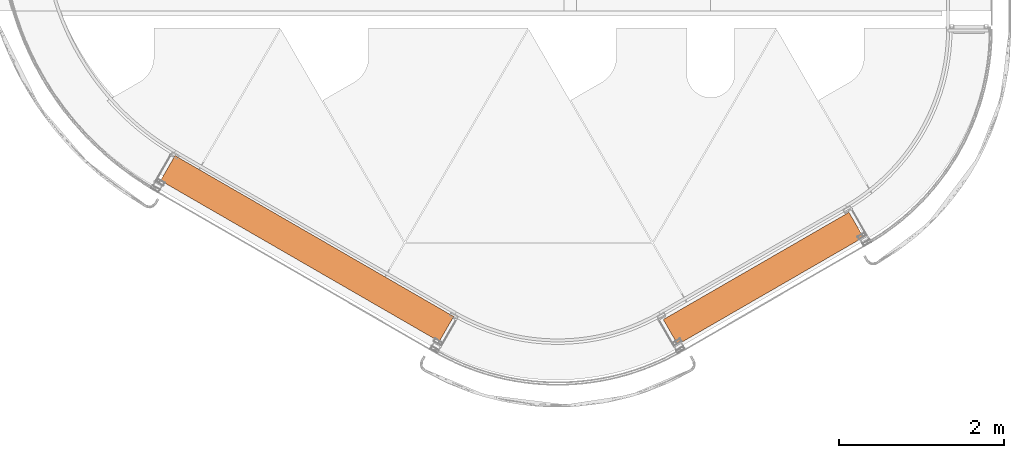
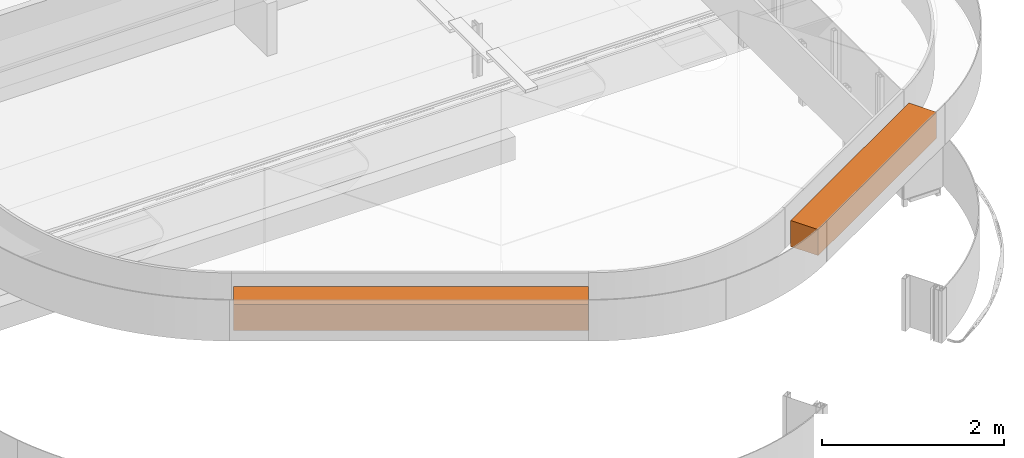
# One storey, part 18 of 18: 2 proxies.
"""IFC2X3 building model written with IfcOpenShell, lengths in millimetres."""

from ifc_helpers import new_model, entity, si_unit, converted_unit, derived_unit, direction, frame, frame_2d, origin, origin_with_axes, origin_2d_with_axis, place, context, subcontext, project, spatial, rectangle, extrude, source, transform, mapped, material, type_object, element, save


model = new_model("IFC2X3")

# Units and contexts
model_context = context("Model", 3, precision=0.01, world=frame((0.0, 4.29681676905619e-09, 0.0)), true_north=direction((4.01073788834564e-13, 1.0)))
plan_context = context("Plan", 3, precision=0.01, world=frame((0.0, 4.29681676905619e-09, 0.0)), true_north=direction((4.01073788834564e-13, 1.0)))
body_context = subcontext(model_context, "Body", "Model", "MODEL_VIEW")
ifc_project = project(units=[converted_unit("PLANEANGLEUNIT", "DEGREE", entity("IfcPositiveLengthMeasure", 0.0174532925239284), si_unit("PLANEANGLEUNIT", "RADIAN"), dimensions=[0, 0, 0, 0, 0, 0, 0]), si_unit("AREAUNIT", "SQUARE_METRE"), si_unit("LENGTHUNIT", "METRE", prefix="MILLI"), si_unit("MASSUNIT", "GRAM", prefix="KILO"), si_unit("POWERUNIT", "WATT"), si_unit("PRESSUREUNIT", "PASCAL"), si_unit("FORCEUNIT", "NEWTON", prefix="KILO"), si_unit("ELECTRICVOLTAGEUNIT", "VOLT"), si_unit("ELECTRICCURRENTUNIT", "AMPERE"), si_unit("THERMODYNAMICTEMPERATUREUNIT", "DEGREE_CELSIUS"), si_unit("TIMEUNIT", "SECOND"), si_unit("VOLUMEUNIT", "CUBIC_METRE"), derived_unit("LINEARVELOCITYUNIT", [(si_unit("LENGTHUNIT", "METRE"), 1), (si_unit("TIMEUNIT", "SECOND"), -1)]), derived_unit("VOLUMETRICFLOWRATEUNIT", [(si_unit("VOLUMEUNIT", "CUBIC_METRE"), 1), (si_unit("TIMEUNIT", "SECOND"), -1)]), derived_unit("THERMALTRANSMITTANCEUNIT", [(si_unit("POWERUNIT", "WATT"), 1), (si_unit("THERMODYNAMICTEMPERATUREUNIT", "KELVIN"), -1), (si_unit("AREAUNIT", "SQUARE_METRE"), -1)]), derived_unit("SOUNDPRESSUREUNIT", [(si_unit("PRESSUREUNIT", "PASCAL"), 1)])], contexts=[model_context, plan_context])

# Site, building, storey
site_placement = place(None, origin_with_axes())
site = spatial("IfcSite", under=ifc_project, at=site_placement, Name="ENGM", CompositionType="ELEMENT")
building_placement = place(site_placement, origin_with_axes())
building = spatial("IfcBuilding", under=site, at=building_placement, Name="TH", CompositionType="ELEMENT")
storey_placement = place(building_placement, frame((0.0, 0.0, 210200.0), z_axis=(0.0, 0.0, 1.0), x_axis=(1.0, 0.0, 0.0)))
storey = spatial("IfcBuildingStorey", under=building, at=storey_placement, Name="Nivå F - 0,7 m", CompositionType="ELEMENT", Elevation=210200.0)

# Proxies
ifc_material = material(Name="<Unnamed>")
building_element_proxy_type_1 = type_object("IfcBuildingElementProxyType", Name="A234 - Gitter1:A241 - Gitter 350 x 350_UK_2690_offset 25", PredefinedType="NOTDEFINED", material=ifc_material)
shared_shape_1 = source(origin(), body_context, "Body", "SweptSolid", [
    extrude(rectangle(XDim=350.0, YDim=3896.8225074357, at=origin_2d_with_axis()), frame((1948.41125371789, -150.0, 2690.0), z_axis=(0.0, 0.0, 1.0), x_axis=(0.0, 1.0, 0.0)), (0.0, 0.0, 1.0), 350.0),
])
proxy_1_placement = place(storey_placement, frame((903728.07875549, 476929.104938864, -16.4707828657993), z_axis=(0.0, 0.0, 1.0), x_axis=(-0.866025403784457, 0.499999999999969, 0.0)))
element("IfcBuildingElementProxy", 1, at=proxy_1_placement, inside=storey, type_object=building_element_proxy_type_1, material=ifc_material, Name="A234 - Gitter1:A241 - Gitter 350 x 350_UK_2690_offset 25", ObjectType="A234 - Gitter1:A241 - Gitter 350 x 350_UK_2690_offset 25", context=body_context, shape_type="MappedRepresentation", body=[
    mapped(shared_shape_1, transform((0.0, 0.0, 0.0), scale=1.0)),
])
building_element_proxy_type_2 = type_object("IfcBuildingElementProxyType", Name="A234 - Gitter1:A241 - Gitter 350 x 350_UK_2690_offset 25", PredefinedType="NOTDEFINED", material=ifc_material)
shared_shape_2 = source(origin(), body_context, "Body", "SweptSolid", [
    extrude(rectangle(XDim=2596.82250743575, YDim=350.0, at=frame_2d((1.13686837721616e-13, 0.0), x_axis=(1.0, 0.0))), frame((1298.41125371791, 150.0, 2690.0), z_axis=(0.0, 0.0, 1.0), x_axis=(-1.0, 0.0, 0.0)), (0.0, 0.0, 1.0), 350.000000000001),
])
proxy_2_placement = place(storey_placement, frame((906590.292945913, 476892.157413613, 0.0), z_axis=(0.0, 0.0, 1.0), x_axis=(0.866025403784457, 0.499999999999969, 0.0)))
element("IfcBuildingElementProxy", 2, at=proxy_2_placement, inside=storey, type_object=building_element_proxy_type_2, material=ifc_material, Name="A234 - Gitter1:A241 - Gitter 350 x 350_UK_2690_offset 25", ObjectType="A234 - Gitter1:A241 - Gitter 350 x 350_UK_2690_offset 25", context=body_context, shape_type="MappedRepresentation", body=[
    mapped(shared_shape_2, transform((0.0, 0.0, 0.0), scale=1.0)),
])

save(model, "model.ifc")
